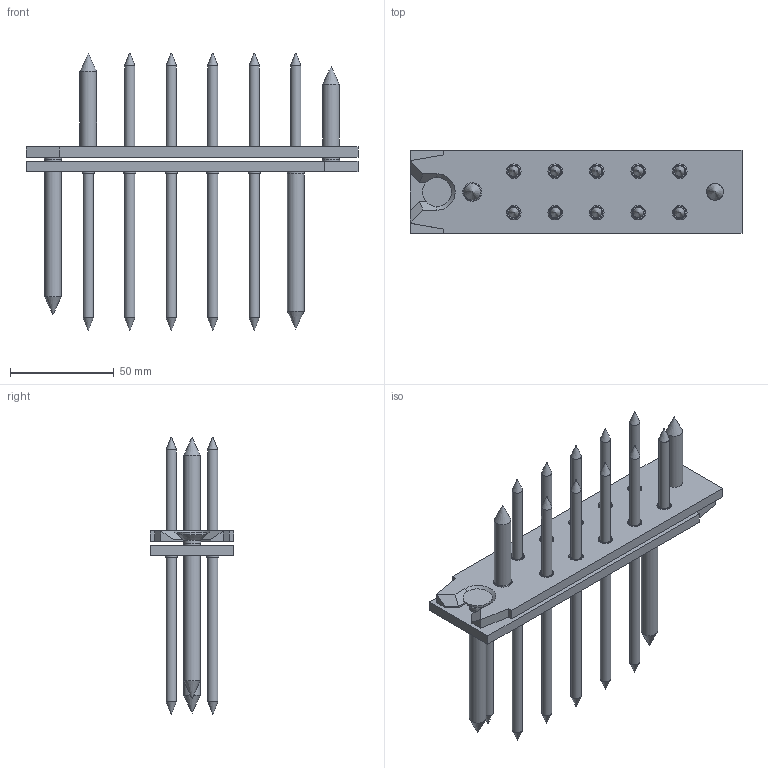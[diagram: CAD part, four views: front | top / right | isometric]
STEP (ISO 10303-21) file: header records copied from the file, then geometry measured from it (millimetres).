
FILE_DESCRIPTION(/* description */ ('Unknown'),/* implementation_level */ '2;1');
FILE_NAME(/* name */ 'RICON Edelstahl_160x40_EA',/* time_stamp */ '2022-02-08T16:18:06+01:00',/* author */ ('Unknown'),/* organization */ ('Unknown'),/* preprocessor_version */ 'ST-DEVELOPER v16.7',/* originating_system */ 'Solid Edge',/* authorisation */ 'Unknown');
FILE_SCHEMA (('AUTOMOTIVE_DESIGN {1 0 10303 214 3 1 1}'));
Length unit declared in the file: millimetre
Products named in the file (6): RICON_40x160_zusammenbau_mit Fase; RICON_40x160_mit Fase; SK_Schraube_5x50; SK_Schraube_8x50; SK_Schraube_5x80; SK_Schraube_8x80
Assembly tree (26 placements, depth 2):
  RICON_40x160_zusammenbau_mit Fase
    RICON_40x160_mit Fase  x2
    SK_Schraube_5x50  x10
    SK_Schraube_8x50  x2
    SK_Schraube_5x80  x10
    SK_Schraube_8x80  x2
Bounding box: 160 x 40 x 133.45 mm (x, y, z)
Volume: 91083.4 mm3; surface area: 58213 mm2
Topology: 26 solids, 26 shells, 276 faces, 534 edges, 330 vertices
Faces by surface type: plane 106, cylinder 98, cone 72
Full cylindrical faces by diameter (mm): 5 x20, 6 x20, 7 x20, 8 x6, 8.3 x4, 9.1 x2, 10 x10, 10.2 x10, 14 x4
Entity records: 2137 total; most frequent: DIRECTION 380, CARTESIAN_POINT 312, ORIENTED_EDGE 228, AXIS2_PLACEMENT_3D 165, FACE_BOUND 145, EDGE_LOOP 143, EDGE_CURVE 114, VERTEX_POINT 97
